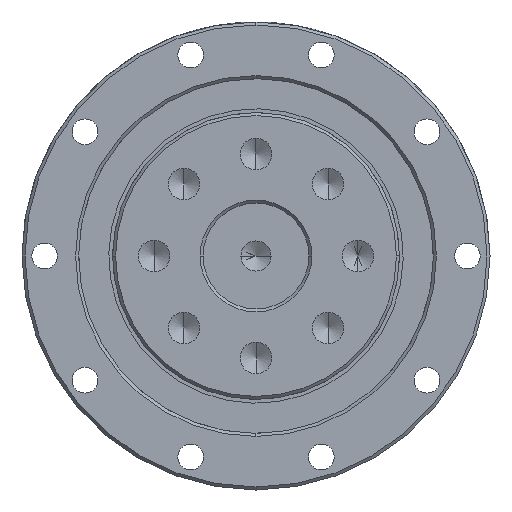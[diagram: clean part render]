
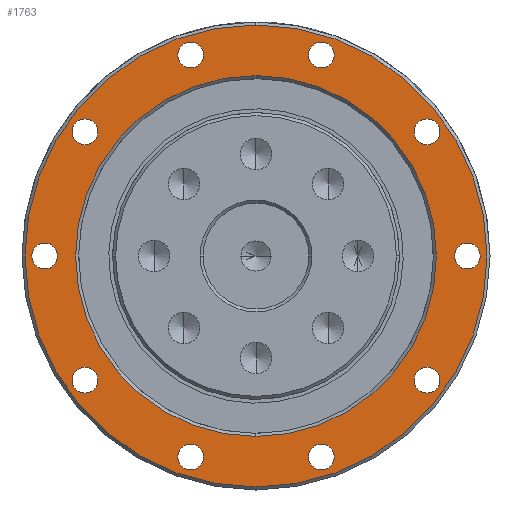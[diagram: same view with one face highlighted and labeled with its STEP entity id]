
A CAD part, left-side view. The second image highlights one B-rep face of the part: STEP entity #1763.
In plain terms, the highlighted planar face has unit normal (-1, 0, 0).
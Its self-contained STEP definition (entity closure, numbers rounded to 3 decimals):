
#1763=ADVANCED_FACE('',(#2740,#2741,#2742,#2743,#2744,#2745,#2746,#2747,
#2748,#2749,#2750,#2751),#1989,.F.);
#1989=PLANE('',#8629);
#2315=CIRCLE('',#8520,30.6);
#2323=CIRCLE('',#8533,1.7);
#2325=CIRCLE('',#8536,1.7);
#2327=CIRCLE('',#8539,1.7);
#2329=CIRCLE('',#8542,1.7);
#2331=CIRCLE('',#8545,1.7);
#2333=CIRCLE('',#8548,1.7);
#2335=CIRCLE('',#8551,1.7);
#2337=CIRCLE('',#8554,1.7);
#2339=CIRCLE('',#8557,1.7);
#2341=CIRCLE('',#8560,1.7);
#2344=CIRCLE('',#8564,23.9);
#2370=CIRCLE('',#8609,30.6);
#2375=CIRCLE('',#8618,1.7);
#2376=CIRCLE('',#8619,1.7);
#2377=CIRCLE('',#8620,1.7);
#2378=CIRCLE('',#8621,1.7);
#2379=CIRCLE('',#8622,1.7);
#2380=CIRCLE('',#8623,1.7);
#2381=CIRCLE('',#8624,1.7);
#2382=CIRCLE('',#8625,1.7);
#2383=CIRCLE('',#8626,1.7);
#2384=CIRCLE('',#8627,1.7);
#2385=CIRCLE('',#8628,23.9);
#2740=FACE_BOUND('',#3182,.T.);
#2741=FACE_BOUND('',#3183,.T.);
#2742=FACE_BOUND('',#3184,.T.);
#2743=FACE_BOUND('',#3185,.T.);
#2744=FACE_BOUND('',#3186,.T.);
#2745=FACE_BOUND('',#3187,.T.);
#2746=FACE_BOUND('',#3188,.T.);
#2747=FACE_BOUND('',#3189,.T.);
#2748=FACE_BOUND('',#3190,.T.);
#2749=FACE_BOUND('',#3191,.T.);
#2750=FACE_BOUND('',#3192,.T.);
#2751=FACE_BOUND('',#3193,.T.);
#3182=EDGE_LOOP('',(#4634,#4635));
#3183=EDGE_LOOP('',(#4636,#4637));
#3184=EDGE_LOOP('',(#4638,#4639));
#3185=EDGE_LOOP('',(#4640,#4641));
#3186=EDGE_LOOP('',(#4642,#4643));
#3187=EDGE_LOOP('',(#4644,#4645));
#3188=EDGE_LOOP('',(#4646,#4647));
#3189=EDGE_LOOP('',(#4648,#4649));
#3190=EDGE_LOOP('',(#4650,#4651));
#3191=EDGE_LOOP('',(#4652,#4653));
#3192=EDGE_LOOP('',(#4654,#4655));
#3193=EDGE_LOOP('',(#4656,#4657));
#4634=ORIENTED_EDGE('',*,*,#6688,.F.);
#4635=ORIENTED_EDGE('',*,*,#6805,.F.);
#4636=ORIENTED_EDGE('',*,*,#6692,.F.);
#4637=ORIENTED_EDGE('',*,*,#6806,.F.);
#4638=ORIENTED_EDGE('',*,*,#6696,.F.);
#4639=ORIENTED_EDGE('',*,*,#6807,.F.);
#4640=ORIENTED_EDGE('',*,*,#6700,.F.);
#4641=ORIENTED_EDGE('',*,*,#6808,.F.);
#4642=ORIENTED_EDGE('',*,*,#6704,.F.);
#4643=ORIENTED_EDGE('',*,*,#6809,.F.);
#4644=ORIENTED_EDGE('',*,*,#6708,.F.);
#4645=ORIENTED_EDGE('',*,*,#6810,.F.);
#4646=ORIENTED_EDGE('',*,*,#6712,.F.);
#4647=ORIENTED_EDGE('',*,*,#6811,.F.);
#4648=ORIENTED_EDGE('',*,*,#6716,.F.);
#4649=ORIENTED_EDGE('',*,*,#6812,.F.);
#4650=ORIENTED_EDGE('',*,*,#6720,.F.);
#4651=ORIENTED_EDGE('',*,*,#6813,.F.);
#4652=ORIENTED_EDGE('',*,*,#6724,.F.);
#4653=ORIENTED_EDGE('',*,*,#6814,.F.);
#4654=ORIENTED_EDGE('',*,*,#6815,.F.);
#4655=ORIENTED_EDGE('',*,*,#6730,.F.);
#4656=ORIENTED_EDGE('',*,*,#6671,.F.);
#4657=ORIENTED_EDGE('',*,*,#6788,.F.);
#5828=VERTEX_POINT('',#15244);
#5829=VERTEX_POINT('',#15245);
#5842=VERTEX_POINT('',#15283);
#5843=VERTEX_POINT('',#15284);
#5846=VERTEX_POINT('',#15292);
#5847=VERTEX_POINT('',#15293);
#5850=VERTEX_POINT('',#15301);
#5851=VERTEX_POINT('',#15302);
#5854=VERTEX_POINT('',#15310);
#5855=VERTEX_POINT('',#15311);
#5858=VERTEX_POINT('',#15319);
#5859=VERTEX_POINT('',#15320);
#5862=VERTEX_POINT('',#15328);
#5863=VERTEX_POINT('',#15329);
#5866=VERTEX_POINT('',#15337);
#5867=VERTEX_POINT('',#15338);
#5870=VERTEX_POINT('',#15346);
#5871=VERTEX_POINT('',#15347);
#5874=VERTEX_POINT('',#15355);
#5875=VERTEX_POINT('',#15356);
#5878=VERTEX_POINT('',#15364);
#5879=VERTEX_POINT('',#15365);
#5884=VERTEX_POINT('',#15376);
#5885=VERTEX_POINT('',#15378);
#6671=EDGE_CURVE('',#5828,#5829,#2315,.T.);
#6688=EDGE_CURVE('',#5842,#5843,#2323,.T.);
#6692=EDGE_CURVE('',#5846,#5847,#2325,.T.);
#6696=EDGE_CURVE('',#5850,#5851,#2327,.T.);
#6700=EDGE_CURVE('',#5854,#5855,#2329,.T.);
#6704=EDGE_CURVE('',#5858,#5859,#2331,.T.);
#6708=EDGE_CURVE('',#5862,#5863,#2333,.T.);
#6712=EDGE_CURVE('',#5866,#5867,#2335,.T.);
#6716=EDGE_CURVE('',#5870,#5871,#2337,.T.);
#6720=EDGE_CURVE('',#5874,#5875,#2339,.T.);
#6724=EDGE_CURVE('',#5878,#5879,#2341,.T.);
#6730=EDGE_CURVE('',#5884,#5885,#2344,.T.);
#6788=EDGE_CURVE('',#5829,#5828,#2370,.T.);
#6805=EDGE_CURVE('',#5843,#5842,#2375,.T.);
#6806=EDGE_CURVE('',#5847,#5846,#2376,.T.);
#6807=EDGE_CURVE('',#5851,#5850,#2377,.T.);
#6808=EDGE_CURVE('',#5855,#5854,#2378,.T.);
#6809=EDGE_CURVE('',#5859,#5858,#2379,.T.);
#6810=EDGE_CURVE('',#5863,#5862,#2380,.T.);
#6811=EDGE_CURVE('',#5867,#5866,#2381,.T.);
#6812=EDGE_CURVE('',#5871,#5870,#2382,.T.);
#6813=EDGE_CURVE('',#5875,#5874,#2383,.T.);
#6814=EDGE_CURVE('',#5879,#5878,#2384,.T.);
#6815=EDGE_CURVE('',#5885,#5884,#2385,.T.);
#8520=AXIS2_PLACEMENT_3D('',#15243,#10359,#10360);
#8533=AXIS2_PLACEMENT_3D('',#15282,#10393,#10394);
#8536=AXIS2_PLACEMENT_3D('',#15291,#10401,#10402);
#8539=AXIS2_PLACEMENT_3D('',#15300,#10409,#10410);
#8542=AXIS2_PLACEMENT_3D('',#15309,#10417,#10418);
#8545=AXIS2_PLACEMENT_3D('',#15318,#10425,#10426);
#8548=AXIS2_PLACEMENT_3D('',#15327,#10433,#10434);
#8551=AXIS2_PLACEMENT_3D('',#15336,#10441,#10442);
#8554=AXIS2_PLACEMENT_3D('',#15345,#10449,#10450);
#8557=AXIS2_PLACEMENT_3D('',#15354,#10457,#10458);
#8560=AXIS2_PLACEMENT_3D('',#15363,#10465,#10466);
#8564=AXIS2_PLACEMENT_3D('',#15377,#10476,#10477);
#8609=AXIS2_PLACEMENT_3D('',#15517,#10596,#10597);
#8618=AXIS2_PLACEMENT_3D('',#15572,#10622,#10623);
#8619=AXIS2_PLACEMENT_3D('',#15573,#10624,#10625);
#8620=AXIS2_PLACEMENT_3D('',#15574,#10626,#10627);
#8621=AXIS2_PLACEMENT_3D('',#15575,#10628,#10629);
#8622=AXIS2_PLACEMENT_3D('',#15576,#10630,#10631);
#8623=AXIS2_PLACEMENT_3D('',#15577,#10632,#10633);
#8624=AXIS2_PLACEMENT_3D('',#15578,#10634,#10635);
#8625=AXIS2_PLACEMENT_3D('',#15579,#10636,#10637);
#8626=AXIS2_PLACEMENT_3D('',#15580,#10638,#10639);
#8627=AXIS2_PLACEMENT_3D('',#15581,#10640,#10641);
#8628=AXIS2_PLACEMENT_3D('',#15582,#10642,#10643);
#8629=AXIS2_PLACEMENT_3D('',#15583,#10644,#10645);
#10359=DIRECTION('',(1.,0.,0.));
#10360=DIRECTION('',(0.,0.,-1.));
#10393=DIRECTION('',(-1.,0.,0.));
#10394=DIRECTION('',(0.,0.,-1.));
#10401=DIRECTION('',(-1.,0.,0.));
#10402=DIRECTION('',(0.,0.,-1.));
#10409=DIRECTION('',(-1.,0.,0.));
#10410=DIRECTION('',(0.,0.,-1.));
#10417=DIRECTION('',(-1.,0.,0.));
#10418=DIRECTION('',(0.,0.,-1.));
#10425=DIRECTION('',(-1.,0.,0.));
#10426=DIRECTION('',(0.,0.,-1.));
#10433=DIRECTION('',(-1.,0.,0.));
#10434=DIRECTION('',(0.,0.,-1.));
#10441=DIRECTION('',(-1.,0.,0.));
#10442=DIRECTION('',(0.,0.,-1.));
#10449=DIRECTION('',(-1.,0.,0.));
#10450=DIRECTION('',(0.,0.,-1.));
#10457=DIRECTION('',(-1.,0.,0.));
#10458=DIRECTION('',(0.,0.,-1.));
#10465=DIRECTION('',(-1.,0.,0.));
#10466=DIRECTION('',(0.,0.,-1.));
#10476=DIRECTION('',(-1.,0.,0.));
#10477=DIRECTION('',(0.,0.,1.));
#10596=DIRECTION('',(1.,0.,0.));
#10597=DIRECTION('',(0.,0.,-1.));
#10622=DIRECTION('',(-1.,0.,0.));
#10623=DIRECTION('',(0.,0.,-1.));
#10624=DIRECTION('',(-1.,0.,0.));
#10625=DIRECTION('',(0.,0.,-1.));
#10626=DIRECTION('',(-1.,0.,0.));
#10627=DIRECTION('',(0.,0.,-1.));
#10628=DIRECTION('',(-1.,0.,0.));
#10629=DIRECTION('',(0.,0.,-1.));
#10630=DIRECTION('',(-1.,0.,0.));
#10631=DIRECTION('',(0.,0.,-1.));
#10632=DIRECTION('',(-1.,0.,0.));
#10633=DIRECTION('',(0.,0.,-1.));
#10634=DIRECTION('',(-1.,0.,0.));
#10635=DIRECTION('',(0.,0.,-1.));
#10636=DIRECTION('',(-1.,0.,0.));
#10637=DIRECTION('',(0.,0.,-1.));
#10638=DIRECTION('',(-1.,0.,0.));
#10639=DIRECTION('',(0.,0.,-1.));
#10640=DIRECTION('',(-1.,0.,0.));
#10641=DIRECTION('',(0.,0.,-1.));
#10642=DIRECTION('',(-1.,0.,0.));
#10643=DIRECTION('',(0.,0.,1.));
#10644=DIRECTION('',(1.,0.,0.));
#10645=DIRECTION('',(0.,0.,-1.));
#15243=CARTESIAN_POINT('',(-9.4,0.,0.));
#15244=CARTESIAN_POINT('',(-9.4,0.,-30.6));
#15245=CARTESIAN_POINT('',(-9.4,0.,30.6));
#15282=CARTESIAN_POINT('',(-9.4,22.652,16.458));
#15283=CARTESIAN_POINT('',(-9.4,22.652,14.758));
#15284=CARTESIAN_POINT('',(-9.4,22.652,18.158));
#15291=CARTESIAN_POINT('',(-9.4,8.652,26.63));
#15292=CARTESIAN_POINT('',(-9.4,8.652,24.93));
#15293=CARTESIAN_POINT('',(-9.4,8.652,28.33));
#15300=CARTESIAN_POINT('',(-9.4,-8.652,26.63));
#15301=CARTESIAN_POINT('',(-9.4,-8.652,24.93));
#15302=CARTESIAN_POINT('',(-9.4,-8.652,28.33));
#15309=CARTESIAN_POINT('',(-9.4,-22.652,16.458));
#15310=CARTESIAN_POINT('',(-9.4,-22.652,14.758));
#15311=CARTESIAN_POINT('',(-9.4,-22.652,18.158));
#15318=CARTESIAN_POINT('',(-9.4,-28.,0.));
#15319=CARTESIAN_POINT('',(-9.4,-28.,-1.7));
#15320=CARTESIAN_POINT('',(-9.4,-28.,1.7));
#15327=CARTESIAN_POINT('',(-9.4,-22.652,-16.458));
#15328=CARTESIAN_POINT('',(-9.4,-22.652,-18.158));
#15329=CARTESIAN_POINT('',(-9.4,-22.652,-14.758));
#15336=CARTESIAN_POINT('',(-9.4,-8.652,-26.63));
#15337=CARTESIAN_POINT('',(-9.4,-8.652,-28.33));
#15338=CARTESIAN_POINT('',(-9.4,-8.652,-24.93));
#15345=CARTESIAN_POINT('',(-9.4,8.652,-26.63));
#15346=CARTESIAN_POINT('',(-9.4,8.652,-28.33));
#15347=CARTESIAN_POINT('',(-9.4,8.652,-24.93));
#15354=CARTESIAN_POINT('',(-9.4,22.652,-16.458));
#15355=CARTESIAN_POINT('',(-9.4,22.652,-18.158));
#15356=CARTESIAN_POINT('',(-9.4,22.652,-14.758));
#15363=CARTESIAN_POINT('',(-9.4,28.,0.));
#15364=CARTESIAN_POINT('',(-9.4,28.,-1.7));
#15365=CARTESIAN_POINT('',(-9.4,28.,1.7));
#15376=CARTESIAN_POINT('',(-9.4,0.,-23.9));
#15377=CARTESIAN_POINT('',(-9.4,0.,0.));
#15378=CARTESIAN_POINT('',(-9.4,0.,23.9));
#15517=CARTESIAN_POINT('',(-9.4,0.,0.));
#15572=CARTESIAN_POINT('',(-9.4,22.652,16.458));
#15573=CARTESIAN_POINT('',(-9.4,8.652,26.63));
#15574=CARTESIAN_POINT('',(-9.4,-8.652,26.63));
#15575=CARTESIAN_POINT('',(-9.4,-22.652,16.458));
#15576=CARTESIAN_POINT('',(-9.4,-28.,0.));
#15577=CARTESIAN_POINT('',(-9.4,-22.652,-16.458));
#15578=CARTESIAN_POINT('',(-9.4,-8.652,-26.63));
#15579=CARTESIAN_POINT('',(-9.4,8.652,-26.63));
#15580=CARTESIAN_POINT('',(-9.4,22.652,-16.458));
#15581=CARTESIAN_POINT('',(-9.4,28.,0.));
#15582=CARTESIAN_POINT('',(-9.4,0.,0.));
#15583=CARTESIAN_POINT('',(-9.4,30.6,0.));
